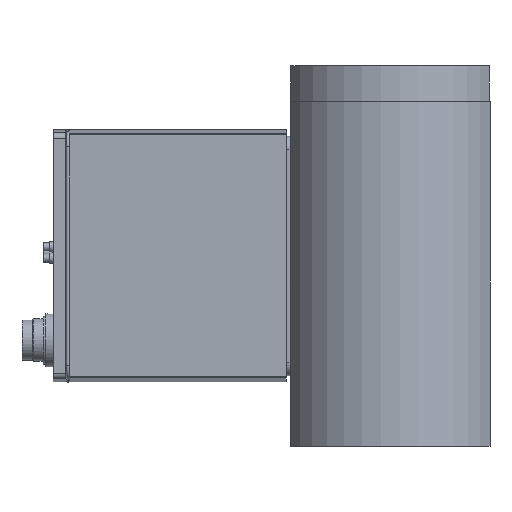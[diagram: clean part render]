
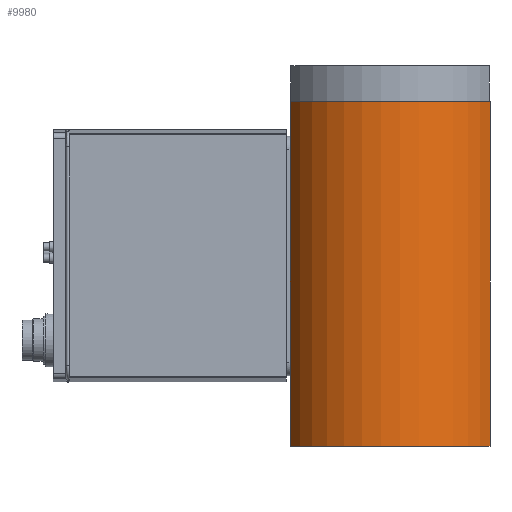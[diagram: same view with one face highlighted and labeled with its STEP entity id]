
A CAD part, left-side view. The second image highlights one B-rep face of the part: STEP entity #9980.
In plain terms, the highlighted cylindrical face has radius 41.5 mm (diameter 83 mm), a partial arc.
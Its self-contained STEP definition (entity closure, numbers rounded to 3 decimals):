
#1523=FACE_OUTER_BOUND('',#2166,.T.);
#2166=EDGE_LOOP('',(#8889,#8890,#8891,#8892));
#2895=LINE('',#17513,#3612);
#2896=LINE('',#17514,#3613);
#3612=VECTOR('',#13738,129.5);
#3613=VECTOR('',#13739,129.5);
#4175=CIRCLE('',#11051,41.5);
#4179=CIRCLE('',#11056,41.5);
#5022=VERTEX_POINT('',#17487);
#5024=VERTEX_POINT('',#17490);
#5030=VERTEX_POINT('',#17504);
#5031=VERTEX_POINT('',#17505);
#6341=EDGE_CURVE('',#5024,#5022,#4175,.T.);
#6348=EDGE_CURVE('',#5030,#5031,#4179,.T.);
#6352=EDGE_CURVE('',#5030,#5022,#2895,.T.);
#6353=EDGE_CURVE('',#5031,#5024,#2896,.T.);
#8889=ORIENTED_EDGE('',*,*,#6341,.T.);
#8890=ORIENTED_EDGE('',*,*,#6352,.F.);
#8891=ORIENTED_EDGE('',*,*,#6348,.T.);
#8892=ORIENTED_EDGE('',*,*,#6353,.T.);
#9459=CYLINDRICAL_SURFACE('',#11058,41.5);
#9980=ADVANCED_FACE('',(#1523),#9459,.T.);
#11051=AXIS2_PLACEMENT_3D('',#17491,#13717,#13718);
#11056=AXIS2_PLACEMENT_3D('',#17506,#13730,#13731);
#11058=AXIS2_PLACEMENT_3D('',#17512,#13736,#13737);
#13717=DIRECTION('center_axis',(0.,0.,
-1.));
#13718=DIRECTION('ref_axis',(1.,0.,0.));
#13730=DIRECTION('center_axis',(0.,0.,
1.));
#13731=DIRECTION('ref_axis',(1.,0.,0.));
#13736=DIRECTION('center_axis',(0.,0.,
1.));
#13737=DIRECTION('ref_axis',(-1.,0.,0.));
#13738=DIRECTION('',(0.,0.,1.));
#13739=DIRECTION('',(0.,0.,1.));
#17487=CARTESIAN_POINT('',(-144.936,-204.118,275.501));
#17490=CARTESIAN_POINT('',(-144.936,-279.118,275.501));
#17491=CARTESIAN_POINT('Origin',(-127.159,-241.618,275.501));
#17504=CARTESIAN_POINT('',(-144.936,-204.118,146.001));
#17505=CARTESIAN_POINT('',(-144.936,-279.118,146.001));
#17506=CARTESIAN_POINT('Origin',(-127.159,-241.618,146.001));
#17512=CARTESIAN_POINT('Origin',(-127.159,-241.618,146.001));
#17513=CARTESIAN_POINT('',(-144.936,-204.118,146.001));
#17514=CARTESIAN_POINT('',(-144.936,-279.118,146.001));
